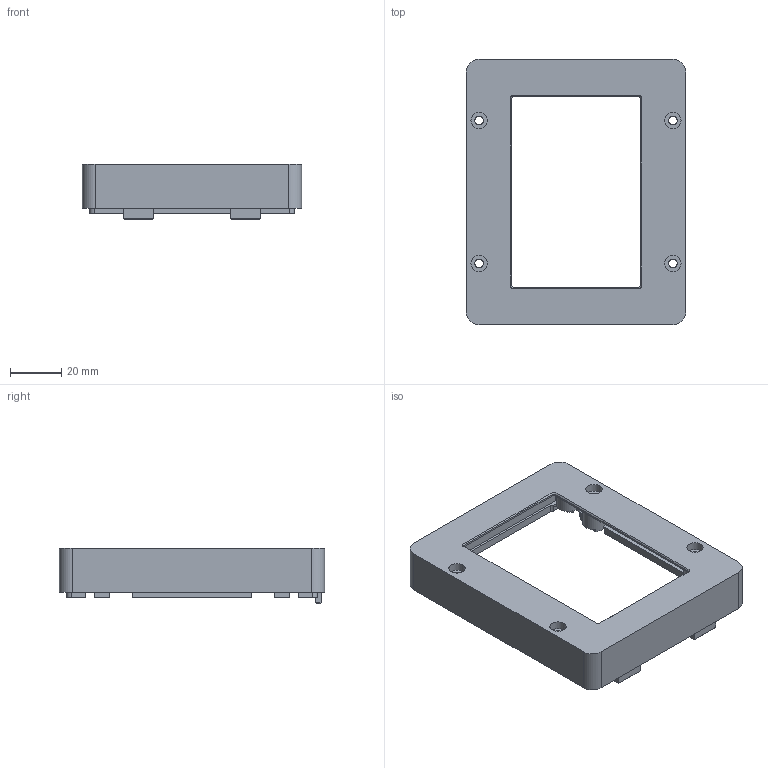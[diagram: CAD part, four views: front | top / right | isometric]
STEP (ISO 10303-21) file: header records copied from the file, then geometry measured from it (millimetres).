
FILE_DESCRIPTION(/* description */ (''),/* implementation_level */ '2;1');
FILE_NAME(/* name */ 'carrier-top.step',/* time_stamp */ '2026-09-14T13:08:18-07:00',/* author */ (''),/* organization */ (''),/* preprocessor_version */ 'ST-DEVELOPER v20.2',/* originating_system */ 'Autodesk Translation Framework v15.15.0.0',/* authorisation */ '');
FILE_SCHEMA (('AUTOMOTIVE_DESIGN { 1 0 10303 214 3 1 1 }'));
Length unit declared in the file: centimetre
Products named in the file (1): 02 Top bezel - reinforced fascia keys
Bounding box: 86 x 104 x 21.9 mm (x, y, z)
Volume: 31652.2 mm3; surface area: 27731 mm2
Topology: 1 solids, 1 shells, 185 faces, 494 edges, 325 vertices
Faces by surface type: plane 120, cylinder 64, bspline 1
Full cylindrical faces by diameter (mm): 3.4 x4, 4 x4, 6.4 x4, 9 x4
Entity records: 6095 total; most frequent: CARTESIAN_POINT 1261, DIRECTION 1023, ORIENTED_EDGE 988, EDGE_CURVE 494, AXIS2_PLACEMENT_3D 345, LINE 333, VECTOR 333, VERTEX_POINT 325
